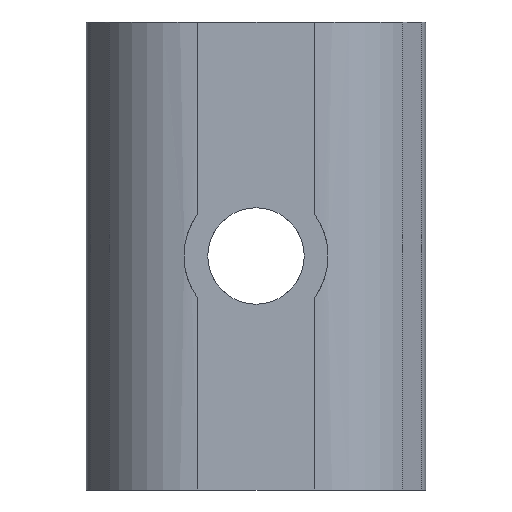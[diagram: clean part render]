
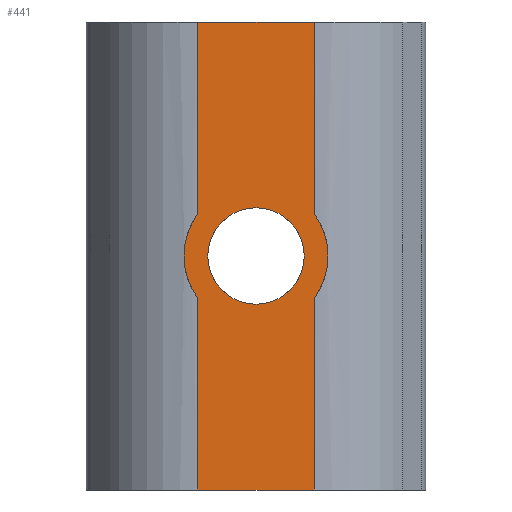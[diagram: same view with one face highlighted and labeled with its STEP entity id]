
A CAD part, front view. The second image highlights one B-rep face of the part: STEP entity #441.
In plain terms, the highlighted planar face has unit normal (0, -1, 0).
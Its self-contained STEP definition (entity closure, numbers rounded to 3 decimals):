
#7 = DIRECTION ( 'NONE',  ( 0., 0., -1. ) ) ;
#23 = VERTEX_POINT ( 'NONE', #58 ) ;
#28 = EDGE_LOOP ( 'NONE', ( #92, #265 ) ) ;
#38 = DIRECTION ( 'NONE',  ( 0., 0., -1. ) ) ;
#40 = AXIS2_PLACEMENT_3D ( 'NONE', #843, #830, #98 ) ;
#43 = EDGE_LOOP ( 'NONE', ( #308, #400, #1068, #169, #385, #497, #1161, #1165 ) ) ;
#48 = FACE_BOUND ( 'NONE', #28, .T. ) ;
#58 = CARTESIAN_POINT ( 'NONE',  ( 1.989, -4.6, 6.553 ) ) ;
#59 = VECTOR ( 'NONE', #215, 1000. ) ;
#92 = ORIENTED_EDGE ( 'NONE', *, *, #943, .F. ) ;
#93 = DIRECTION ( 'NONE',  ( 0., 0., -1. ) ) ;
#97 = EDGE_CURVE ( 'NONE', #301, #368, #153, .T. ) ;
#98 = DIRECTION ( 'NONE',  ( 0., 0., -1. ) ) ;
#127 = CARTESIAN_POINT ( 'NONE',  ( 1.989, -4.6, 0. ) ) ;
#133 = EDGE_CURVE ( 'NONE', #763, #136, #384, .T. ) ;
#136 = VERTEX_POINT ( 'NONE', #737 ) ;
#153 = CIRCLE ( 'NONE', #447, 2.46 ) ;
#155 = CIRCLE ( 'NONE', #868, 1.65 ) ;
#169 = ORIENTED_EDGE ( 'NONE', *, *, #791, .T. ) ;
#176 = EDGE_CURVE ( 'NONE', #655, #301, #1141, .T. ) ;
#184 = DIRECTION ( 'NONE',  ( 0., -1., 0. ) ) ;
#193 = VECTOR ( 'NONE', #803, 1000. ) ;
#215 = DIRECTION ( 'NONE',  ( 1., 0., 0. ) ) ;
#222 = EDGE_CURVE ( 'NONE', #826, #23, #925, .T. ) ;
#225 = CIRCLE ( 'NONE', #493, 1.65 ) ;
#250 = CARTESIAN_POINT ( 'NONE',  ( 0., -4.6, 9.65 ) ) ;
#253 = CARTESIAN_POINT ( 'NONE',  ( -1.989, -4.6, 0. ) ) ;
#265 = ORIENTED_EDGE ( 'NONE', *, *, #683, .F. ) ;
#269 = DIRECTION ( 'NONE',  ( 0., 0., 1. ) ) ;
#274 = LINE ( 'NONE', #377, #403 ) ;
#301 = VERTEX_POINT ( 'NONE', #694 ) ;
#308 = ORIENTED_EDGE ( 'NONE', *, *, #977, .T. ) ;
#310 = AXIS2_PLACEMENT_3D ( 'NONE', #127, #861, #38 ) ;
#337 = CARTESIAN_POINT ( 'NONE',  ( 1.989, -4.6, 0. ) ) ;
#343 = DIRECTION ( 'NONE',  ( 0., 1., 0. ) ) ;
#368 = VERTEX_POINT ( 'NONE', #1069 ) ;
#376 = CARTESIAN_POINT ( 'NONE',  ( -1.989, -4.6, 0. ) ) ;
#377 = CARTESIAN_POINT ( 'NONE',  ( 1.989, -4.6, 0. ) ) ;
#384 = LINE ( 'NONE', #466, #59 ) ;
#385 = ORIENTED_EDGE ( 'NONE', *, *, #133, .F. ) ;
#399 = VERTEX_POINT ( 'NONE', #594 ) ;
#400 = ORIENTED_EDGE ( 'NONE', *, *, #739, .T. ) ;
#403 = VECTOR ( 'NONE', #639, 1000. ) ;
#441 = ADVANCED_FACE ( 'NONE', ( #48, #870 ), #960, .T. ) ;
#447 = AXIS2_PLACEMENT_3D ( 'NONE', #547, #343, #709 ) ;
#456 = VECTOR ( 'NONE', #796, 1000. ) ;
#466 = CARTESIAN_POINT ( 'NONE',  ( 0., -4.6, 16. ) ) ;
#493 = AXIS2_PLACEMENT_3D ( 'NONE', #662, #828, #7 ) ;
#497 = ORIENTED_EDGE ( 'NONE', *, *, #1156, .F. ) ;
#519 = VECTOR ( 'NONE', #743, 1000. ) ;
#547 = CARTESIAN_POINT ( 'NONE',  ( 0., -4.6, 8. ) ) ;
#564 = CARTESIAN_POINT ( 'NONE',  ( -1.989, -4.6, 0. ) ) ;
#594 = CARTESIAN_POINT ( 'NONE',  ( 0., -4.6, 6.35 ) ) ;
#631 = CARTESIAN_POINT ( 'NONE',  ( 1.989, -4.6, 9.447 ) ) ;
#639 = DIRECTION ( 'NONE',  ( 1., 0., 0. ) ) ;
#655 = VERTEX_POINT ( 'NONE', #376 ) ;
#662 = CARTESIAN_POINT ( 'NONE',  ( 0., -4.6, 8. ) ) ;
#683 = EDGE_CURVE ( 'NONE', #399, #862, #155, .T. ) ;
#694 = CARTESIAN_POINT ( 'NONE',  ( -1.989, -4.6, 6.553 ) ) ;
#709 = DIRECTION ( 'NONE',  ( 0., 0., -1. ) ) ;
#733 = CARTESIAN_POINT ( 'NONE',  ( 1.989, -4.6, 0. ) ) ;
#737 = CARTESIAN_POINT ( 'NONE',  ( 1.989, -4.6, 16. ) ) ;
#739 = EDGE_CURVE ( 'NONE', #1200, #23, #1078, .T. ) ;
#743 = DIRECTION ( 'NONE',  ( 0., 0., 1. ) ) ;
#763 = VERTEX_POINT ( 'NONE', #1176 ) ;
#791 = EDGE_CURVE ( 'NONE', #826, #136, #994, .T. ) ;
#796 = DIRECTION ( 'NONE',  ( 0., 0., 1. ) ) ;
#803 = DIRECTION ( 'NONE',  ( 0., 0., 1. ) ) ;
#826 = VERTEX_POINT ( 'NONE', #631 ) ;
#828 = DIRECTION ( 'NONE',  ( 0., -1., 0. ) ) ;
#830 = DIRECTION ( 'NONE',  ( 0., 1., 0. ) ) ;
#843 = CARTESIAN_POINT ( 'NONE',  ( 0., -4.6, 8. ) ) ;
#861 = DIRECTION ( 'NONE',  ( 0., -1., 0. ) ) ;
#862 = VERTEX_POINT ( 'NONE', #250 ) ;
#868 = AXIS2_PLACEMENT_3D ( 'NONE', #1016, #184, #93 ) ;
#870 = FACE_OUTER_BOUND ( 'NONE', #43, .T. ) ;
#886 = LINE ( 'NONE', #253, #456 ) ;
#925 = CIRCLE ( 'NONE', #40, 2.46 ) ;
#943 = EDGE_CURVE ( 'NONE', #862, #399, #225, .T. ) ;
#960 = PLANE ( 'NONE',  #310 ) ;
#977 = EDGE_CURVE ( 'NONE', #655, #1200, #274, .T. ) ;
#983 = CARTESIAN_POINT ( 'NONE',  ( 1.989, -4.6, 0. ) ) ;
#994 = LINE ( 'NONE', #983, #1110 ) ;
#1016 = CARTESIAN_POINT ( 'NONE',  ( 0., -4.6, 8. ) ) ;
#1068 = ORIENTED_EDGE ( 'NONE', *, *, #222, .F. ) ;
#1069 = CARTESIAN_POINT ( 'NONE',  ( -1.989, -4.6, 9.447 ) ) ;
#1078 = LINE ( 'NONE', #337, #193 ) ;
#1110 = VECTOR ( 'NONE', #269, 1000. ) ;
#1141 = LINE ( 'NONE', #564, #519 ) ;
#1156 = EDGE_CURVE ( 'NONE', #368, #763, #886, .T. ) ;
#1161 = ORIENTED_EDGE ( 'NONE', *, *, #97, .F. ) ;
#1165 = ORIENTED_EDGE ( 'NONE', *, *, #176, .F. ) ;
#1176 = CARTESIAN_POINT ( 'NONE',  ( -1.989, -4.6, 16. ) ) ;
#1200 = VERTEX_POINT ( 'NONE', #733 ) ;
